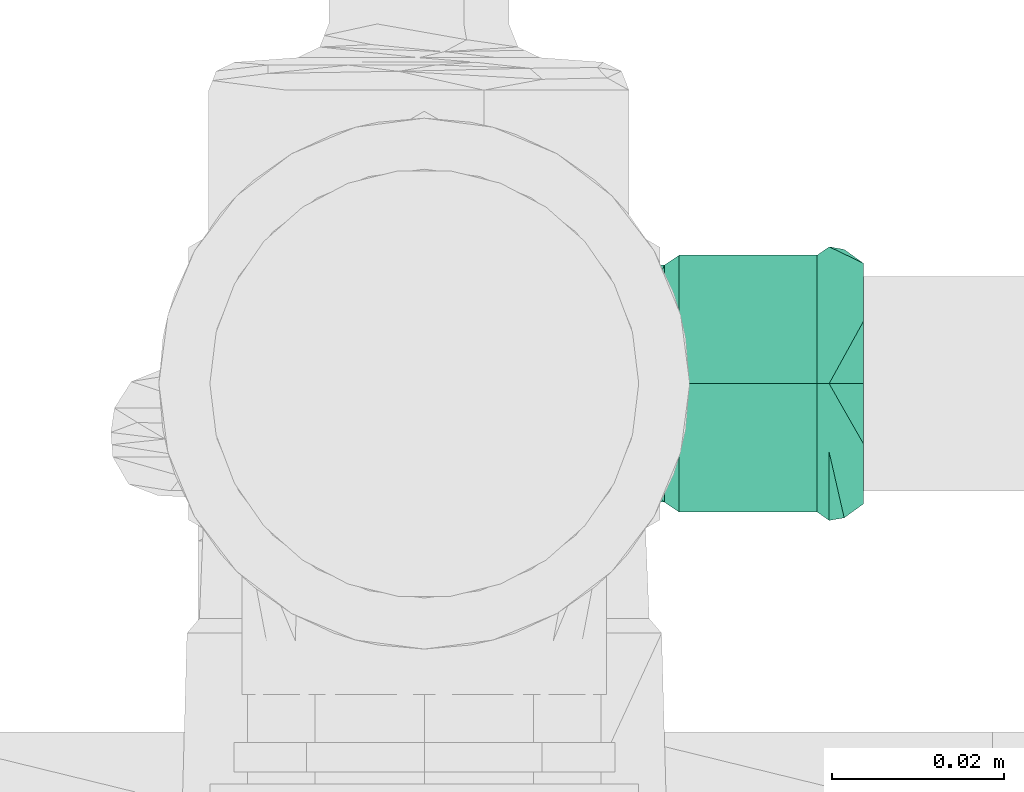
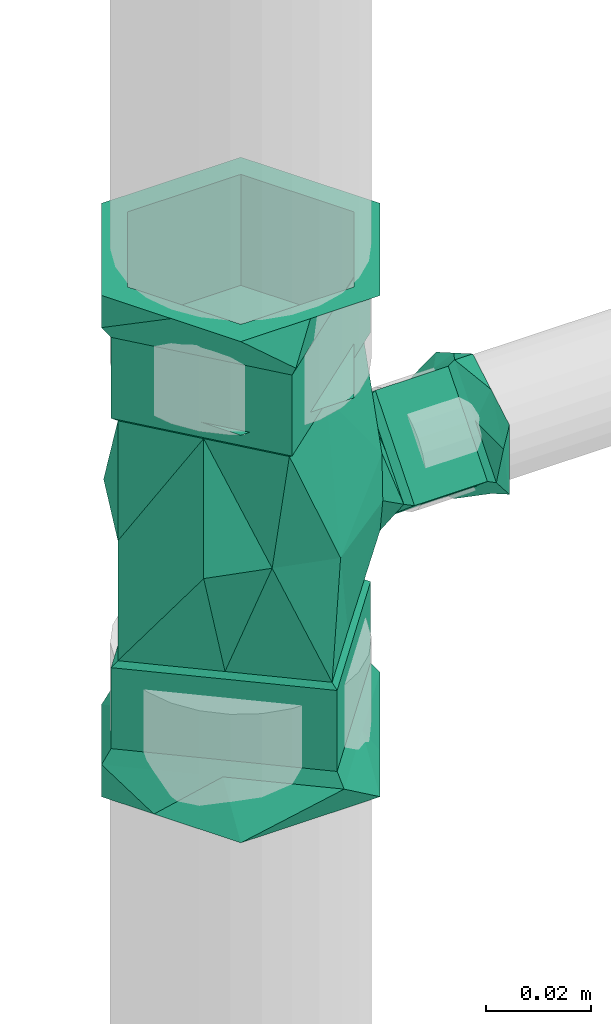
# One storey, part 156 of 589: 1 flow fitting.
"""IFC2X3 building model written with IfcOpenShell, lengths in millimetres."""

from ifc_helpers import new_model, entity, si_unit, converted_unit, derived_unit, direction, frame, origin, place, context, subcontext, project, spatial, faceted_brep, source, transform, mapped, material, type_object, type_shapes, element, save


model = new_model("IFC2X3")

# Units and contexts
model_context = context("Model", 3, precision=0.01, world=origin(), true_north=direction((6.123031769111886e-17, 1.0)))
body_context = subcontext(model_context, "Body", "Model", "MODEL_VIEW")
ifc_project = project(units=[si_unit("LENGTHUNIT", "METRE", prefix="MILLI"), si_unit("AREAUNIT", "SQUARE_METRE"), si_unit("VOLUMEUNIT", "CUBIC_METRE"), converted_unit("PLANEANGLEUNIT", "DEGREE", entity("IfcRatioMeasure", 0.017453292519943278), si_unit("PLANEANGLEUNIT", "RADIAN"), dimensions=[0, 0, 0, 0, 0, 0, 0]), si_unit("MASSUNIT", "GRAM", prefix="KILO"), derived_unit("MASSDENSITYUNIT", [(si_unit("MASSUNIT", "GRAM", prefix="KILO"), 1), (si_unit("LENGTHUNIT", "METRE"), -3)]), derived_unit("IONCONCENTRATIONUNIT", [(si_unit("MASSUNIT", "GRAM", prefix="KILO"), 1), (si_unit("LENGTHUNIT", "METRE"), -3)]), derived_unit("MOMENTOFINERTIAUNIT", [(si_unit("LENGTHUNIT", "METRE"), 4)]), si_unit("TIMEUNIT", "SECOND"), si_unit("FREQUENCYUNIT", "HERTZ"), si_unit("THERMODYNAMICTEMPERATUREUNIT", "DEGREE_CELSIUS"), derived_unit("THERMALTRANSMITTANCEUNIT", [(si_unit("MASSUNIT", "GRAM", prefix="KILO"), 1), (si_unit("THERMODYNAMICTEMPERATUREUNIT", "KELVIN"), -1), (si_unit("TIMEUNIT", "SECOND"), -3)]), derived_unit("THERMALCONDUCTANCEUNIT", [(si_unit("MASSUNIT", "GRAM", prefix="KILO"), 1), (si_unit("THERMODYNAMICTEMPERATUREUNIT", "KELVIN"), -1), (si_unit("TIMEUNIT", "SECOND"), -3), (si_unit("LENGTHUNIT", "METRE"), 1)]), derived_unit("VOLUMETRICFLOWRATEUNIT", [(si_unit("LENGTHUNIT", "METRE"), 3), (si_unit("TIMEUNIT", "SECOND"), -1)]), derived_unit("MASSFLOWRATEUNIT", [(si_unit("MASSUNIT", "GRAM", prefix="KILO"), 1), (si_unit("TIMEUNIT", "SECOND"), -1)]), derived_unit("ROTATIONALFREQUENCYUNIT", [(si_unit("TIMEUNIT", "SECOND"), -1)]), si_unit("ELECTRICCURRENTUNIT", "AMPERE"), si_unit("ELECTRICVOLTAGEUNIT", "VOLT"), si_unit("POWERUNIT", "WATT"), si_unit("FORCEUNIT", "NEWTON", prefix="KILO"), si_unit("ILLUMINANCEUNIT", "LUX"), si_unit("LUMINOUSFLUXUNIT", "LUMEN"), si_unit("LUMINOUSINTENSITYUNIT", "CANDELA"), derived_unit("USERDEFINED", [(si_unit("MASSUNIT", "GRAM", prefix="KILO"), -1), (si_unit("LENGTHUNIT", "METRE"), -2), (si_unit("TIMEUNIT", "SECOND"), 3), (si_unit("LUMINOUSFLUXUNIT", "LUMEN"), 1)]), derived_unit("USERDEFINED", [(si_unit("MASSUNIT", "GRAM", prefix="KILO"), 1), (si_unit("TIMEUNIT", "SECOND"), -3), (si_unit("LENGTHUNIT", "METRE"), 3), (si_unit("ELECTRICCURRENTUNIT", "AMPERE"), -2)]), derived_unit("SOUNDPOWERUNIT", [(si_unit("MASSUNIT", "GRAM", prefix="KILO"), 1), (si_unit("TIMEUNIT", "SECOND"), -3), (si_unit("LENGTHUNIT", "METRE"), 2)]), derived_unit("SOUNDPRESSUREUNIT", [(si_unit("MASSUNIT", "GRAM", prefix="KILO"), 1), (si_unit("LENGTHUNIT", "METRE"), -1), (si_unit("TIMEUNIT", "SECOND"), -2)]), derived_unit("LINEARVELOCITYUNIT", [(si_unit("LENGTHUNIT", "METRE"), 1), (si_unit("TIMEUNIT", "SECOND"), -1)]), si_unit("PRESSUREUNIT", "PASCAL"), derived_unit("USERDEFINED", [(si_unit("MASSUNIT", "GRAM", prefix="KILO"), 1), (si_unit("LENGTHUNIT", "METRE"), -2), (si_unit("TIMEUNIT", "SECOND"), -2)]), derived_unit("LINEARFORCEUNIT", [(si_unit("MASSUNIT", "GRAM", prefix="KILO"), 1), (si_unit("TIMEUNIT", "SECOND"), -2)]), derived_unit("PLANARFORCEUNIT", [(si_unit("MASSUNIT", "GRAM", prefix="KILO"), 1), (si_unit("LENGTHUNIT", "METRE"), -1), (si_unit("TIMEUNIT", "SECOND"), -2)]), derived_unit("SPECIFICHEATCAPACITYUNIT", [(si_unit("THERMODYNAMICTEMPERATUREUNIT", "KELVIN"), -1), (si_unit("LENGTHUNIT", "METRE"), 2), (si_unit("TIMEUNIT", "SECOND"), -2)]), derived_unit("HEATINGVALUEUNIT", [(si_unit("LENGTHUNIT", "METRE"), 2), (si_unit("TIMEUNIT", "SECOND"), -2)]), derived_unit("VAPORPERMEABILITYUNIT", [(si_unit("LENGTHUNIT", "METRE"), -1), (si_unit("TIMEUNIT", "SECOND"), 1)]), derived_unit("DYNAMICVISCOSITYUNIT", [(si_unit("MASSUNIT", "GRAM", prefix="KILO"), 1), (si_unit("TIMEUNIT", "SECOND"), -1), (si_unit("LENGTHUNIT", "METRE"), -1)]), derived_unit("THERMALEXPANSIONCOEFFICIENTUNIT", [(si_unit("THERMODYNAMICTEMPERATUREUNIT", "KELVIN"), -1)]), derived_unit("MODULUSOFELASTICITYUNIT", [(si_unit("MASSUNIT", "GRAM", prefix="KILO"), 1), (si_unit("LENGTHUNIT", "METRE"), -1), (si_unit("TIMEUNIT", "SECOND"), -2)]), derived_unit("ISOTHERMALMOISTURECAPACITYUNIT", [(si_unit("LENGTHUNIT", "METRE"), 3), (si_unit("MASSUNIT", "GRAM", prefix="KILO"), -1)]), derived_unit("MOISTUREDIFFUSIVITYUNIT", [(si_unit("TIMEUNIT", "SECOND"), -1), (si_unit("LENGTHUNIT", "METRE"), 2)])], contexts=[model_context])

# Site, building, storey
site_placement = place(None, origin())
site = spatial("IfcSite", under=ifc_project, at=site_placement, Name="Default", CompositionType="ELEMENT")
building_placement = place(site_placement, origin())
building = spatial("IfcBuilding", under=site, at=building_placement, CompositionType="ELEMENT")
storey_placement = place(building_placement, frame((0.0, 0.0, 100.0)))
storey = spatial("IfcBuildingStorey", under=building, at=storey_placement, Name="TÉRREO", CompositionType="ELEMENT", Elevation=100.0)

# Flow fitting
ifc_material = material(Name="PVC Marrom")
pipe_fitting_type = type_object("IfcPipeFittingType", Name="PVC Marrom Soldável_Tê e Tê de Reducão_Rodrigo MEP:Tê", PredefinedType="NOTDEFINED", material=ifc_material)
shared_shape = source(origin(), body_context, "Body", "Brep", [
    faceted_brep([(8.099999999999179, -51.19999999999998, -14.029611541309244), (12.500000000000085, -51.19999999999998, 0.0), (6.249999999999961, -51.199999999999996, -10.82531754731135), (12.006116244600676, -51.19999999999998, -7.26401974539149), (-6.250000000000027, -51.20000000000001, -10.825317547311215), (0.0, -51.2, -14.02961154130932), (16.20000000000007, -51.199999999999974, 0.0), (6.250000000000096, -51.199999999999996, 10.825317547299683), (12.15000000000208, -51.19999999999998, 7.014805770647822), (8.10000000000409, -51.19999999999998, 14.029611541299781), (-6.249999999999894, -51.20000000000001, 10.825317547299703), (0.0, -51.2, 14.02961154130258), (-8.09999999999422, -51.20000000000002, 14.029611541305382), (-12.00611625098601, -51.20000000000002, 7.2640197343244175), (-16.199999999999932, -51.200000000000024, 0.0), (-12.499999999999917, -51.20000000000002, 0.0), (-12.149999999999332, -51.20000000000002, -7.014805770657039), (-8.099999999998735, -51.20000000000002, -14.0296115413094), (-9.505660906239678, -47.19999999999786, 7.977099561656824), (-2.81132181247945, -47.19999999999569, 15.95419912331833), (4.194176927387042, -48.95626714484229, 15.647647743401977), (-16.199999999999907, -47.200000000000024, 0.0), (16.200000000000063, -47.199999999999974, 0.0), (6.694339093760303, -47.19999999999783, 7.977099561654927), (10.200288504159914, -47.19999999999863, 5.034925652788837), (1.941508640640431, -47.1999999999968, 11.965649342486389), (9.50766188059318, -47.19999999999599, -7.976746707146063), (2.8153237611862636, -47.19999999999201, -15.953493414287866), (-4.191233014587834, -48.95635467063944, -15.648436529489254), (-6.692338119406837, -47.199999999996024, -7.97674670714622), (-10.19988795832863, -47.199999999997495, -5.033979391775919), (-1.938507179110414, -47.199999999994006, -11.965120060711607), (-6.250000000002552, -47.2, -10.825317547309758), (-9.37499999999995, -47.20000000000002, -5.412658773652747), (-12.499999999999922, -47.20000000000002, 0.0), (-8.816048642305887, -45.80000000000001, -6.380790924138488), (-6.249999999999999, -45.80000000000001, -10.82531754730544), (-6.249999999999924, -33.7, -10.825317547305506), (-12.499999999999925, -45.80000000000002, 0.0), (-12.499999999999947, -33.70000000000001, 0.0), (0.0, -47.199999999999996, -10.82531754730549), (6.250000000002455, -47.19999999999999, -10.825317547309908), (6.249999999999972, -45.8, -10.825317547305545), (0.0, -45.800000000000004, -10.825317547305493), (6.250000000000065, -33.699999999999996, -10.825317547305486), (12.50000000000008, -47.19999999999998, 0.0), (8.816048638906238, -47.19999999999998, -6.380790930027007), (9.375000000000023, -45.8, -5.4126587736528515), (12.500000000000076, -45.799999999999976, 0.0), (12.500000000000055, -33.69999999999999, 0.0), (6.249999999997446, -47.19999999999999, 10.825317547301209), (9.37500000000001, -47.19999999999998, 5.4126587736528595), (8.81604864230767, -45.8, 6.380790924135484), (6.249999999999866, -45.8, 10.825317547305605), (6.2499999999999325, -33.699999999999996, 10.825317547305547), (0.0, -47.199999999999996, 10.82531754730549), (-6.2499999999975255, -47.2, 10.82531754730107), (-6.250000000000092, -45.80000000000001, 10.825317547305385), (0.0, -45.800000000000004, 10.825317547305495), (-6.250000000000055, -33.7, 10.825317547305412), (-8.816048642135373, -47.20000000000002, 6.380790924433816), (-9.375000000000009, -45.80000000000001, 5.412658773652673), (-9.570641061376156, -45.79999999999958, -4.724127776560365), (2.6377834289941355, -45.799999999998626, -14.96937201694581), (15.200000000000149, -45.799999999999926, 0.0), (-15.199999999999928, -45.800000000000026, 0.0), (-9.79862070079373, -45.79999999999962, -4.5328084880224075), (8.918891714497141, -45.79999999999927, -7.484686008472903), (-3.941282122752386, -45.799999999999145, -9.44825555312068), (-4.397241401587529, -45.79999999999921, -9.065616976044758), (10.739615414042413, -45.80000000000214, 3.7421774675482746), (6.279230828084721, -45.80000000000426, 7.484354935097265), (1.8188462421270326, -45.80000000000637, 11.226532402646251), (-2.641538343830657, -45.80000000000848, 14.96870987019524), (-6.443631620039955, -45.80000000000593, 10.436910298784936), (-8.920769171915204, -45.800000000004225, 7.484354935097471), (-10.245724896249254, -45.80000000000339, 5.9051107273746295), (-8.918891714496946, -29.700000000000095, 7.4846860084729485), (9.798620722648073, -29.70000000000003, 4.532808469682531), (6.281108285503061, -29.700000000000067, 7.484686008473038), (4.3972414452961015, -29.70000000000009, 9.065616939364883), (-15.199999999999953, -29.700000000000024, 0.0), (-2.637783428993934, -29.70000000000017, 14.96937201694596), (15.200000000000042, -29.699999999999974, 0.0), (8.920769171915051, -29.699999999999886, -7.484354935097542), (2.6415383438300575, -29.699999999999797, -14.968709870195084), (-6.279230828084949, -29.699999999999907, -7.484354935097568), (-8.651615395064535, -28.0, -4.521903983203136), (-5.801761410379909, -28.0, -6.91348643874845), (-3.263230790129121, -28.0, -9.043807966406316), (-14.039999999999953, -28.0, 0.0), (2.436477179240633, -28.0, -13.826972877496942), (8.238238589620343, -28.0, -6.913486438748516), (14.040000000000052, -28.0, 0.0), (5.800025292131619, -28.0, 6.913180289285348), (-2.439949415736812, -28.0, 13.826360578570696), (-9.297801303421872, -28.0, 5.652333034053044), (-8.239974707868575, -28.0, 6.913180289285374), (-13.993250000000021, -27.149999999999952, 0.0), (-8.698026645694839, -24.90789224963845, -10.803675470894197), (0.0, -23.389258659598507, -13.786409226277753), (13.993249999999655, -27.149999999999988, 0.0), (10.886120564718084, -25.729354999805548, -8.667340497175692), (8.698026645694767, -24.907892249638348, 10.803675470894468), (0.0, -23.389258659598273, 13.786409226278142), (-10.886120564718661, -25.729354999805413, 8.667340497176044), (-32.59999999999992, -25.0, 0.0), (-32.59999999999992, -19.790106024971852, 9.023801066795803), (-32.59999999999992, -12.500000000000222, 21.650635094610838), (-32.59999999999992, 0.0, 21.65063509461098), (-32.59999999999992, 12.499999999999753, 21.65063509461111), (-32.59999999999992, 18.749999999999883, 10.825317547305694), (-32.59999999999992, 25.0, 0.0), (-32.59999999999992, 19.790105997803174, -9.023801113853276), (-32.59999999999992, 12.500000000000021, -21.65063509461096), (-32.59999999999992, 0.0, -21.65063509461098), (-32.59999999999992, -12.49999999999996, -21.650635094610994), (-32.59999999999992, -18.749999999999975, -10.825317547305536), (-48.0, -12.500000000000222, 21.650635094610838), (-48.0, -18.750000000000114, 10.825317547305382), (-58.50000000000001, -18.75000000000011, 10.82531754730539), (-58.50000000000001, -12.500000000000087, 21.650635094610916), (-48.0, -19.790106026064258, 9.02380106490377), (-48.0, -25.0, 0.0), (-58.50000000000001, -25.0, 0.0), (32.60000000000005, -25.0, 0.0), (32.60000000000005, -18.74999999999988, 10.825317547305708), (32.60000000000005, -12.499999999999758, 21.65063509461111), (58.5, -12.499999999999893, 21.650635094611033), (58.500000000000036, -19.97114481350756, 8.71023268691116), (58.5, -25.0, 0.0), (-48.0, 0.0, 21.650635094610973), (-48.0, 12.499999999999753, 21.65063509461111), (-58.50000000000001, 0.0, 21.650635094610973), (-58.50000000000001, 12.499999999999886, 21.650635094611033), (32.60000000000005, 0.0, 21.650635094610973), (32.60000000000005, 12.500000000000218, 21.650635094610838), (58.5, 12.500000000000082, 21.650635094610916), (58.5, 0.0, 21.650635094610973), (-48.0, 19.790106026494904, 9.023801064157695), (-48.0, 25.0, 0.0), (-48.0, 18.749999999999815, 10.825317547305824), (-58.49999999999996, 19.79010602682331, 9.023801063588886), (-58.50000000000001, 25.0, 0.0), (32.60000000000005, 19.97114481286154, 8.71023268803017), (32.60000000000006, 25.0, 0.0), (58.5, 25.0, 0.0), (58.5, 18.75000000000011, 10.825317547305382), (-48.0, 12.49999999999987, -21.650635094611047), (-48.0, 18.749999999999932, -10.825317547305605), (-58.50000000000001, 18.749999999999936, -10.825317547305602), (-58.50000000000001, 12.499999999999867, -21.650635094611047), (-48.0, 19.790106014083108, -9.023801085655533), (32.60000000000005, 18.749999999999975, -10.82531754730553), (32.60000000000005, 12.499999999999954, -21.650635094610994), (58.5, 12.5000000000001, -21.650635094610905), (58.500000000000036, 19.97114481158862, -8.710232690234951), (-48.0, 0.0, -21.65063509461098), (-48.0, -12.50000000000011, -21.650635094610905), (-58.50000000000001, 0.0, -21.65063509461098), (-58.50000000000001, -12.500000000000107, -21.650635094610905), (32.60000000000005, 0.0, -21.65063509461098), (32.60000000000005, -12.500000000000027, -21.65063509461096), (58.5, -12.499999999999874, -21.650635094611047), (58.5, 0.0, -21.65063509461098), (-48.0, -19.790106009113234, -9.02380109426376), (-48.0, -18.75000000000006, -10.825317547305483), (-58.49999999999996, -19.79010602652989, -9.023801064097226), (32.60000000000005, -19.971144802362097, -8.710232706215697), (58.5, -18.749999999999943, -10.825317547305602), (-28.0, 15.934137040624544, -13.368436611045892), (0.0, 27.15, 0.0), (0.0, 19.249777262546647, -19.145980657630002), (0.0, 6.194218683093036, -22.707339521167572), (-28.0, 20.511742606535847, -7.912286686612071), (-28.0, 27.15, 0.0), (0.0, -6.861339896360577, -26.268698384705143), (-28.0, 4.718274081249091, -26.73687322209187), (-28.0, -27.15, 0.0), (-28.0, -19.18293147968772, -6.684218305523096), (-28.0, -11.215862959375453, -13.368436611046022), (-28.0, -3.2487944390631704, -20.052654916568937), (-28.0, 10.326205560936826, -20.052654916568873), (-28.0, -15.930783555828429, 13.369027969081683), (0.0, -6.86133989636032, 26.268698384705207), (-28.0, -4.711567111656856, 26.738055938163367), (-28.0, -10.32117533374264, 20.053541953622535), (0.0, 19.24977726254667, 19.145980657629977), (-28.0, 19.60719441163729, 6.329881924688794), (-28.0, 11.219216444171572, 13.369027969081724), (0.0, 6.194218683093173, 22.707339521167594), (-28.0, 3.2538246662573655, 20.05354195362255), (-28.0, -20.510950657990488, 7.911215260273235), (-29.099999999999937, 16.81093734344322, -14.107648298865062), (-29.099999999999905, 10.891406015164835, -21.16147244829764), (-29.099999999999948, -12.730929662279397, -13.359198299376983), (-29.099999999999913, -3.8795274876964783, -20.787247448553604), (-29.099999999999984, -20.690464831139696, -6.679599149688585), (-29.099999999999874, 4.97187468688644, -28.215296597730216), (-29.1, 28.650000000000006, 0.0), (-29.099999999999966, 22.730468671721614, -7.053824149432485), (-29.09999999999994, -11.83906265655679, -14.107648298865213), (-29.100000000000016, -28.649999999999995, 0.0), (-29.100000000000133, -9.809464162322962, 22.456453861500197), (-29.100000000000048, -21.64498805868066, 8.349429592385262), (-29.10000000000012, 3.4282858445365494, 21.160536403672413), (-29.10000000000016, -4.978952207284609, 28.21404853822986), (-29.100000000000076, 11.835523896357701, 14.107024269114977), (-29.10000000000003, 20.242761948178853, 7.053512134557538), (-29.100000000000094, -14.639976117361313, 16.698859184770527), (-29.10000000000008, -16.814476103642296, 14.107024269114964), (-48.0, -4.978952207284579, 28.214048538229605), (-48.0, 28.650000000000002, 0.0), (-48.0, 12.939627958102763, 13.18070205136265), (-48.0, 11.835523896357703, 14.107024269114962), (-48.0, -16.81447610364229, 14.107024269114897), (-48.0, -28.650000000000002, 0.0), (-48.0, 4.971874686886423, -28.215296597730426), (-48.0, -12.94067667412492, -13.183179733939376), (-48.0, -11.839062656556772, -14.107648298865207), (-48.0, 16.81093734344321, -14.107648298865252), (-51.0, 16.175349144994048, -17.370576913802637), (-51.0, 18.04585747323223, -15.141239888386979), (-51.0, 30.75, 0.0), (-51.0, -12.704142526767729, -15.141239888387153), (-51.0, 5.341714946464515, -30.282479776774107), (-51.0, -30.74999999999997, 0.0), (-51.0, -5.3380546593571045, 30.283125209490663), (-51.0, -18.044027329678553, 15.141562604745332), (-51.0, 4.425812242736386, 22.08982117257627), (-51.0, 14.189679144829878, 13.896517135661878), (-51.0, 12.705972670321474, 15.141562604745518), (-58.50000000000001, -15.375000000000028, -26.63028116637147), (-58.500000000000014, -24.971948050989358, -10.007879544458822), (-58.50000000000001, 0.0, -26.6302811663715), (-58.50000000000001, -30.75, 0.0), (-58.50000000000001, -23.06249999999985, 13.315140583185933), (-58.50000000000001, -15.374999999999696, 26.630281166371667), (-58.50000000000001, 0.0, 26.6302811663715), (-58.50000000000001, 15.375000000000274, 26.63028116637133), (-58.500000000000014, 24.97194806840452, 10.007879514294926), (-58.50000000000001, 30.75, 0.0), (-58.50000000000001, 23.062499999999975, -13.315140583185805), (-58.50000000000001, 15.374999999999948, -26.630281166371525), (51.0, 30.749999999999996, 0.0), (58.5, 23.06249999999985, 13.315140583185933), (58.5, 30.75, 0.0), (51.0, -30.749999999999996, 0.0), (58.5, -30.75, 0.0), (58.5, -24.97194806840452, 10.007879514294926), (58.5, -23.062499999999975, -13.315140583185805), (58.5, 24.971948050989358, -10.007879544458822), (28.0, -15.934137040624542, -13.36843661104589), (28.0, -27.15, 0.0), (28.0, -4.718274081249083, -26.736873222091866), (28.0, -10.326205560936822, -20.05265491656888), (28.0, 27.15, 0.0), (28.0, 19.182931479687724, -6.6842183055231), (28.0, 11.215862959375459, -13.368436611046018), (28.0, 3.248794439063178, -20.052654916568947), (28.0, -20.511742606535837, -7.912286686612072), (28.0, 15.930783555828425, 13.369027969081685), (28.0, 20.51095065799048, 7.9112152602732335), (28.0, 4.711567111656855, 26.73805593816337), (28.0, -19.607194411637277, 6.329881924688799), (28.0, -11.21921644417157, 13.36902796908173), (28.0, -3.2538246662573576, 20.05354195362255), (28.0, 10.321175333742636, 20.053541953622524), (29.099999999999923, -16.81093734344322, -14.107648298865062), (29.09999999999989, -10.891406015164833, -21.16147244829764), (29.099999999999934, 12.730929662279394, -13.359198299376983), (29.09999999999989, 3.879527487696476, -20.787247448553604), (29.099999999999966, 20.690464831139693, -6.679599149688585), (29.099999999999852, -4.971874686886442, -28.215296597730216), (29.1, -28.650000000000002, 0.0), (29.099999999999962, -22.73046867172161, -7.053824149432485), (29.099999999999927, 11.83906265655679, -14.107648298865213), (29.1, 28.64999999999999, 0.0), (29.10000000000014, 9.809464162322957, 22.45645386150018), (29.10000000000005, 21.644988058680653, 8.349429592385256), (29.100000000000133, -3.4282858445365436, 21.160536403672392), (29.100000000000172, 4.978952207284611, 28.214048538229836), (29.100000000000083, -11.83552389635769, 14.107024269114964), (29.100000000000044, -20.242761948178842, 7.053512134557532), (29.1000000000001, 14.639976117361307, 16.69885918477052), (29.10000000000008, 16.814476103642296, 14.107024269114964), (48.0, 4.978952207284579, 28.214048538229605), (48.0, -28.650000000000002, 0.0), (48.0, -12.939627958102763, 13.18070205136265), (48.0, -11.835523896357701, 14.107024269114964), (48.0, 16.81447610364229, 14.107024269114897), (48.0, 28.650000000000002, 0.0), (48.0, -4.971874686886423, -28.215296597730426), (48.0, 12.94067667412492, -13.183179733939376), (48.0, 11.83906265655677, -14.107648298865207), (48.0, -16.81093734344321, -14.107648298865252), (51.0, -16.174511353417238, -17.369443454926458), (51.0, -18.044027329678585, -15.141562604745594), (51.0, 12.70597267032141, -15.141562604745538), (51.0, -5.33805465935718, -30.283125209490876), (51.0, 5.341714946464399, 30.28247977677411), (51.0, 18.045857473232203, 15.141239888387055), (51.0, -4.423715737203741, 22.088869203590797), (51.0, -14.189146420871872, 13.895258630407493), (51.0, -12.70414252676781, 15.141239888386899), (58.5, 15.375000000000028, -26.63028116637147), (58.5, 0.0, -26.6302811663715), (58.5, 15.374999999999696, 26.630281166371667), (58.5, 0.0, 26.6302811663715), (58.5, -15.375000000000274, 26.63028116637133), (58.5, -15.374999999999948, -26.630281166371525)], [[[0, 1, 2]], [[1, 0, 3]], [[0, 2, 4]], [[4, 5, 0]], [[1, 3, 6]], [[7, 1, 6]], [[7, 6, 8]], [[7, 8, 9]], [[7, 9, 10]], [[10, 9, 11]], [[10, 11, 12]], [[10, 12, 13]], [[10, 13, 14]], [[14, 15, 10]], [[15, 14, 16]], [[15, 16, 17]], [[17, 4, 15]], [[4, 17, 5]], [[18, 12, 19]], [[12, 20, 19]], [[18, 21, 13]], [[21, 14, 13]], [[22, 8, 6]], [[20, 8, 23]], [[8, 22, 24, 23]], [[20, 23, 25, 19]], [[20, 12, 11, 9]], [[8, 20, 9]], [[12, 18, 13]], [[26, 0, 27]], [[0, 28, 27]], [[26, 22, 3]], [[22, 6, 3]], [[21, 16, 14]], [[28, 16, 29]], [[16, 21, 30, 29]], [[28, 29, 31, 27]], [[28, 0, 5, 17]], [[16, 28, 17]], [[0, 26, 3]], [[4, 32, 33]], [[4, 33, 34]], [[34, 15, 4]], [[33, 32, 35]], [[36, 35, 32]], [[37, 35, 36]], [[37, 38, 35]], [[38, 37, 39]], [[38, 34, 33]], [[33, 35, 38]], [[4, 2, 32]], [[2, 40, 32]], [[2, 41, 40]], [[42, 40, 41]], [[43, 40, 42]], [[44, 43, 42]], [[44, 36, 43]], [[44, 37, 36]], [[43, 36, 32]], [[32, 40, 43]], [[1, 45, 46]], [[1, 46, 41]], [[41, 2, 1]], [[47, 46, 45]], [[45, 48, 47]], [[49, 47, 48]], [[49, 42, 47]], [[42, 49, 44]], [[41, 46, 42]], [[47, 42, 46]], [[7, 50, 51]], [[7, 51, 45]], [[45, 1, 7]], [[51, 50, 52]], [[53, 52, 50]], [[54, 52, 53]], [[54, 48, 52]], [[48, 54, 49]], [[48, 45, 51]], [[51, 52, 48]], [[7, 10, 50]], [[10, 55, 50]], [[10, 56, 55]], [[57, 55, 56]], [[58, 55, 57]], [[59, 58, 57]], [[59, 53, 58]], [[59, 54, 53]], [[58, 53, 50]], [[50, 55, 58]], [[15, 34, 60]], [[15, 60, 56]], [[56, 10, 15]], [[61, 60, 34]], [[34, 38, 61]], [[39, 61, 38]], [[39, 57, 61]], [[57, 39, 59]], [[56, 60, 57]], [[61, 57, 60]], [[30, 62, 29]], [[31, 63, 27]], [[22, 26, 64]], [[30, 65, 66, 62]], [[27, 63, 67]], [[67, 26, 27]], [[21, 65, 30]], [[63, 31, 68]], [[64, 26, 67]], [[29, 62, 69, 68]], [[31, 29, 68]], [[22, 64, 70]], [[25, 71, 72]], [[72, 19, 25]], [[71, 25, 23, 24]], [[19, 73, 74]], [[18, 74, 75, 76]], [[24, 70, 71]], [[76, 21, 18]], [[76, 65, 21]], [[22, 70, 24]], [[72, 73, 19]], [[19, 74, 18]], [[77, 75, 74, 73]], [[71, 78, 79, 80]], [[81, 65, 76, 75]], [[78, 71, 70, 64]], [[80, 82, 73]], [[81, 75, 77]], [[73, 82, 77]], [[78, 64, 83]], [[80, 73, 72, 71]], [[64, 84, 83]], [[84, 64, 67]], [[85, 63, 68, 69]], [[66, 65, 81]], [[85, 69, 86]], [[86, 69, 62, 66]], [[63, 85, 67]], [[81, 86, 66]], [[67, 85, 84]], [[81, 87, 86]], [[86, 87, 88, 89]], [[87, 81, 90]], [[85, 89, 91]], [[85, 91, 92]], [[92, 84, 85]], [[93, 84, 92]], [[89, 85, 86]], [[83, 84, 93]], [[93, 79, 78, 83]], [[94, 82, 80, 79]], [[82, 94, 95]], [[95, 77, 82]], [[96, 90, 81]], [[77, 95, 97, 96]], [[96, 81, 77]], [[93, 94, 79]], [[98, 88, 87, 90]], [[98, 99, 88]], [[99, 100, 91]], [[101, 93, 92]], [[99, 91, 89, 88]], [[101, 92, 102]], [[92, 91, 102]], [[102, 91, 100]], [[101, 94, 93]], [[101, 103, 94]], [[103, 104, 95]], [[98, 90, 96, 97]], [[103, 95, 94]], [[98, 97, 105]], [[97, 95, 105]], [[105, 95, 104]], [[39, 37, 44, 49, 54, 59]], [[106, 107, 108, 109, 110, 111, 112, 113, 114, 115, 116, 117]], [[118, 108, 119]], [[120, 118, 119]], [[121, 118, 120]], [[107, 119, 108]], [[107, 122, 119]], [[107, 123, 122]], [[107, 106, 123]], [[122, 123, 124]], [[124, 120, 122]], [[120, 119, 122]], [[125, 126, 127, 128, 129, 130]], [[110, 109, 131]], [[131, 132, 110]], [[131, 109, 118]], [[118, 109, 108]], [[121, 131, 118]], [[133, 131, 121]], [[132, 131, 133]], [[133, 134, 132]], [[127, 135, 136, 137, 138, 128]], [[112, 111, 139]], [[139, 140, 112]], [[111, 141, 139]], [[111, 132, 141]], [[110, 132, 111]], [[132, 134, 141]], [[142, 141, 134]], [[142, 140, 139]], [[142, 143, 140]], [[142, 139, 141]], [[137, 136, 144, 145, 146, 147]], [[148, 114, 149]], [[150, 148, 149]], [[151, 148, 150]], [[113, 149, 114]], [[113, 152, 149]], [[113, 140, 152]], [[113, 112, 140]], [[152, 140, 143]], [[143, 150, 152]], [[150, 149, 152]], [[145, 153, 154, 155, 156, 146]], [[116, 115, 157]], [[157, 158, 116]], [[157, 115, 148]], [[148, 115, 114]], [[151, 157, 148]], [[159, 157, 151]], [[158, 157, 159]], [[159, 160, 158]], [[154, 161, 162, 163, 164, 155]], [[106, 117, 165]], [[165, 123, 106]], [[117, 166, 165]], [[117, 158, 166]], [[116, 158, 117]], [[158, 160, 166]], [[167, 166, 160]], [[167, 123, 165]], [[167, 124, 123]], [[167, 165, 166]], [[163, 162, 168, 125, 130, 169]], [[170, 171, 172]], [[170, 172, 173]], [[171, 170, 174, 175]], [[176, 177, 173]], [[176, 100, 99]], [[99, 178, 179, 180]], [[99, 98, 178]], [[176, 180, 181, 177]], [[173, 177, 182, 170]], [[180, 176, 99]], [[183, 105, 104]], [[178, 98, 105]], [[184, 185, 186, 183]], [[187, 171, 175]], [[187, 175, 188, 189]], [[190, 187, 189]], [[190, 189, 191, 185]], [[105, 183, 192, 178]], [[185, 184, 190]], [[104, 184, 183]], [[170, 182, 193, 174]], [[177, 194, 182]], [[180, 179, 195]], [[181, 180, 196]], [[178, 197, 179]], [[198, 177, 181]], [[199, 175, 200]], [[194, 177, 198]], [[180, 195, 201, 196]], [[198, 181, 196]], [[175, 174, 200]], [[174, 193, 200]], [[197, 178, 202]], [[197, 195, 179]], [[194, 193, 182]], [[185, 203, 186]], [[202, 178, 204]], [[185, 205, 206]], [[207, 189, 208]], [[209, 183, 186]], [[175, 199, 188]], [[191, 207, 205]], [[183, 209, 210, 204]], [[188, 208, 189]], [[207, 191, 189]], [[185, 191, 205]], [[178, 192, 183, 204]], [[188, 199, 208]], [[203, 185, 206]], [[203, 209, 186]], [[211, 206, 205, 207, 208, 199, 212, 213, 214]], [[215, 216, 202, 204, 210, 209, 203, 206, 211]], [[217, 198, 196, 201, 195, 197, 202, 216, 218, 219]], [[220, 212, 199, 200, 193, 194, 198, 217]], [[217, 221, 220]], [[220, 221, 222, 223]], [[217, 224, 225]], [[226, 219, 218, 216]], [[223, 212, 220]], [[221, 217, 225]], [[224, 217, 219]], [[226, 224, 219]], [[211, 227, 228]], [[229, 227, 211]], [[229, 211, 214]], [[228, 215, 211]], [[212, 223, 230]], [[226, 215, 228]], [[214, 230, 231, 229]], [[216, 215, 226]], [[230, 214, 213, 212]], [[232, 124, 167]], [[124, 232, 233]], [[232, 167, 160]], [[232, 160, 159]], [[232, 159, 151]], [[151, 234, 232]], [[124, 233, 235]], [[235, 120, 124]], [[235, 121, 120]], [[121, 235, 236]], [[121, 236, 237]], [[237, 133, 121]], [[237, 134, 133]], [[134, 237, 238]], [[134, 238, 239]], [[134, 239, 240]], [[134, 240, 241]], [[241, 142, 134]], [[241, 143, 142]], [[143, 241, 242]], [[143, 242, 243]], [[243, 151, 150]], [[151, 243, 234]], [[243, 150, 143]], [[231, 240, 239]], [[240, 231, 230, 223]], [[223, 241, 240]], [[244, 245, 246]], [[226, 236, 235]], [[247, 248, 249]], [[227, 237, 228]], [[228, 237, 236]], [[226, 228, 236]], [[227, 239, 238, 237]], [[239, 227, 229, 231]], [[224, 233, 232]], [[224, 226, 233]], [[226, 235, 233]], [[247, 250, 248]], [[223, 242, 241]], [[244, 246, 251]], [[243, 222, 221, 225]], [[222, 243, 242]], [[223, 222, 242]], [[224, 234, 225]], [[225, 234, 243]], [[224, 232, 234]], [[252, 102, 100]], [[253, 101, 102]], [[176, 254, 255, 252]], [[172, 171, 256]], [[172, 256, 257, 258]], [[173, 172, 258]], [[173, 258, 259, 254]], [[102, 252, 260, 253]], [[254, 176, 173]], [[100, 176, 252]], [[261, 171, 187]], [[261, 187, 190]], [[171, 261, 262, 256]], [[184, 263, 190]], [[184, 104, 103]], [[103, 253, 264, 265]], [[103, 101, 253]], [[184, 265, 266, 263]], [[190, 263, 267, 261]], [[265, 184, 103]], [[252, 255, 268, 260]], [[254, 269, 255]], [[258, 257, 270]], [[259, 258, 271]], [[256, 272, 257]], [[273, 254, 259]], [[274, 253, 275]], [[269, 254, 273]], [[258, 270, 276, 271]], [[273, 259, 271]], [[253, 260, 275]], [[260, 268, 275]], [[272, 256, 277]], [[272, 270, 257]], [[269, 268, 255]], [[263, 278, 267]], [[277, 256, 279]], [[263, 280, 281]], [[282, 265, 283]], [[284, 261, 267]], [[253, 274, 264]], [[266, 282, 280]], [[261, 284, 285, 279]], [[264, 283, 265]], [[282, 266, 265]], [[263, 266, 280]], [[256, 262, 261, 279]], [[264, 274, 283]], [[278, 263, 281]], [[278, 284, 267]], [[286, 281, 280, 282, 283, 274, 287, 288, 289]], [[290, 291, 277, 279, 285, 284, 278, 281, 286]], [[292, 273, 271, 276, 270, 272, 277, 291, 293, 294]], [[295, 287, 274, 275, 268, 269, 273, 292]], [[292, 296, 295]], [[295, 296, 297, 247]], [[292, 298, 299]], [[244, 294, 293, 291]], [[247, 287, 295]], [[296, 292, 299]], [[298, 292, 294]], [[244, 298, 294]], [[286, 300, 301]], [[302, 300, 286]], [[302, 286, 289]], [[301, 290, 286]], [[287, 247, 303]], [[244, 290, 301]], [[289, 303, 304, 302]], [[291, 290, 244]], [[303, 289, 288, 287]], [[305, 146, 156]], [[146, 305, 251]], [[305, 156, 155]], [[305, 155, 164]], [[305, 164, 163]], [[163, 306, 305]], [[146, 251, 246]], [[246, 147, 146]], [[246, 137, 147]], [[137, 246, 245]], [[137, 245, 307]], [[307, 138, 137]], [[307, 128, 138]], [[128, 307, 308]], [[128, 308, 309]], [[128, 309, 249]], [[128, 249, 248]], [[248, 129, 128]], [[248, 130, 129]], [[130, 248, 250]], [[130, 250, 310]], [[310, 163, 169]], [[163, 310, 306]], [[310, 169, 130]], [[304, 249, 309]], [[249, 304, 303, 247]], [[300, 307, 301]], [[301, 307, 245]], [[244, 301, 245]], [[308, 300, 302, 304]], [[300, 308, 307]], [[304, 309, 308]], [[298, 251, 305]], [[298, 244, 251]], [[310, 297, 296, 299]], [[297, 310, 250]], [[247, 297, 250]], [[299, 305, 306, 310]], [[299, 298, 305]], [[145, 144, 136, 135, 127, 126, 125, 168, 162, 161, 154, 153]]]),
])
type_shapes(pipe_fitting_type, [shared_shape])
flow_fitting_placement = place(storey_placement, frame((8798.142188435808, -7965.828664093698, 1499.999970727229), z_axis=(0.0, 1.0, 0.0), x_axis=(0.0, 0.0, -1.0)))
element("IfcFlowFitting", 1, at=flow_fitting_placement, inside=storey, type_object=pipe_fitting_type, material=ifc_material, Name="PVC Marrom Soldável_Tê e Tê de Reducão_Rodrigo MEP:Tê", ObjectType="PVC Marrom Soldável_Tê e Tê de Reducão_Rodrigo MEP:Tê", context=body_context, shape_type="MappedRepresentation", body=[
    mapped(shared_shape, transform((0.0, 0.0, 0.0), scale=1.0)),
])

save(model, "model.ifc")
